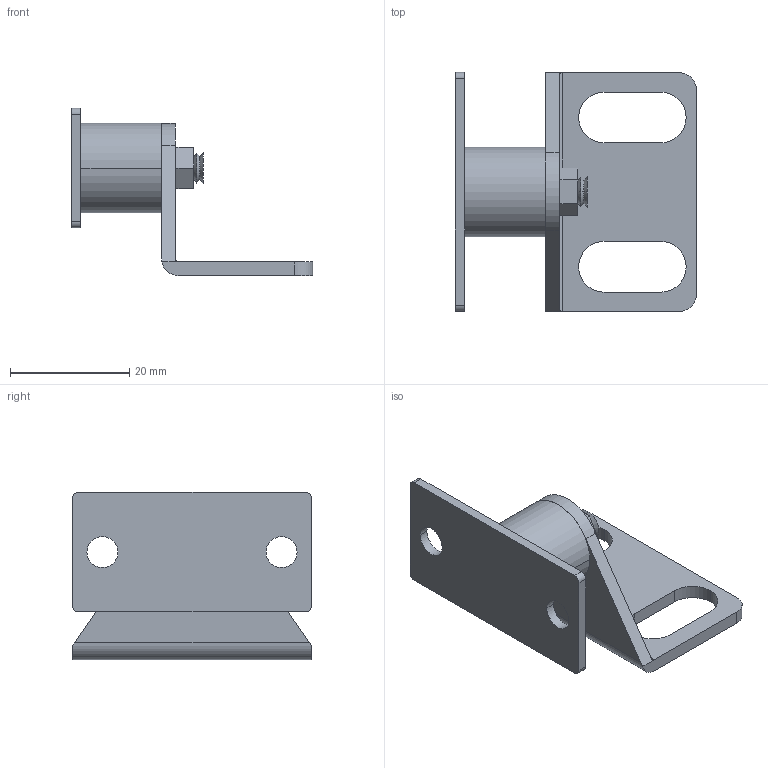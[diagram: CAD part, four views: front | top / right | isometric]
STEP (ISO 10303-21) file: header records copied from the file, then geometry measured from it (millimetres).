
FILE_DESCRIPTION (( 'STEP AP203' ), '1' );
FILE_NAME ('MS0640L-6.STEP', '2024-02-19T12:48:32', ( '' ), ( '' ), 'SwSTEP 2.0', 'SolidWorks 2022', '' );
FILE_SCHEMA (( 'CONFIG_CONTROL_DESIGN' ));
Length unit declared in the file: millimetre
Products named in the file (1): MS0640L-6
Bounding box: 40.4 x 40 x 28 mm (x, y, z)
Volume: 6587.8 mm3; surface area: 6111.8 mm2
Topology: 4 solids, 4 shells, 83 faces, 194 edges, 120 vertices
Faces by surface type: plane 30, cone 28, cylinder 25
Entity records: 2457 total; most frequent: DIRECTION 436, CARTESIAN_POINT 410, ORIENTED_EDGE 388, EDGE_CURVE 194, AXIS2_PLACEMENT_3D 162, VERTEX_POINT 120, VECTOR 112, LINE 112
